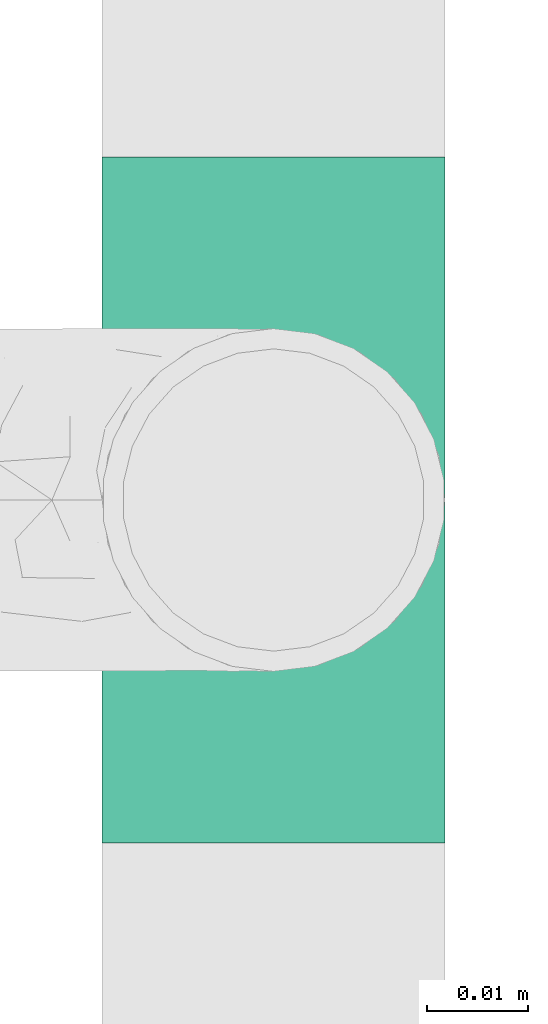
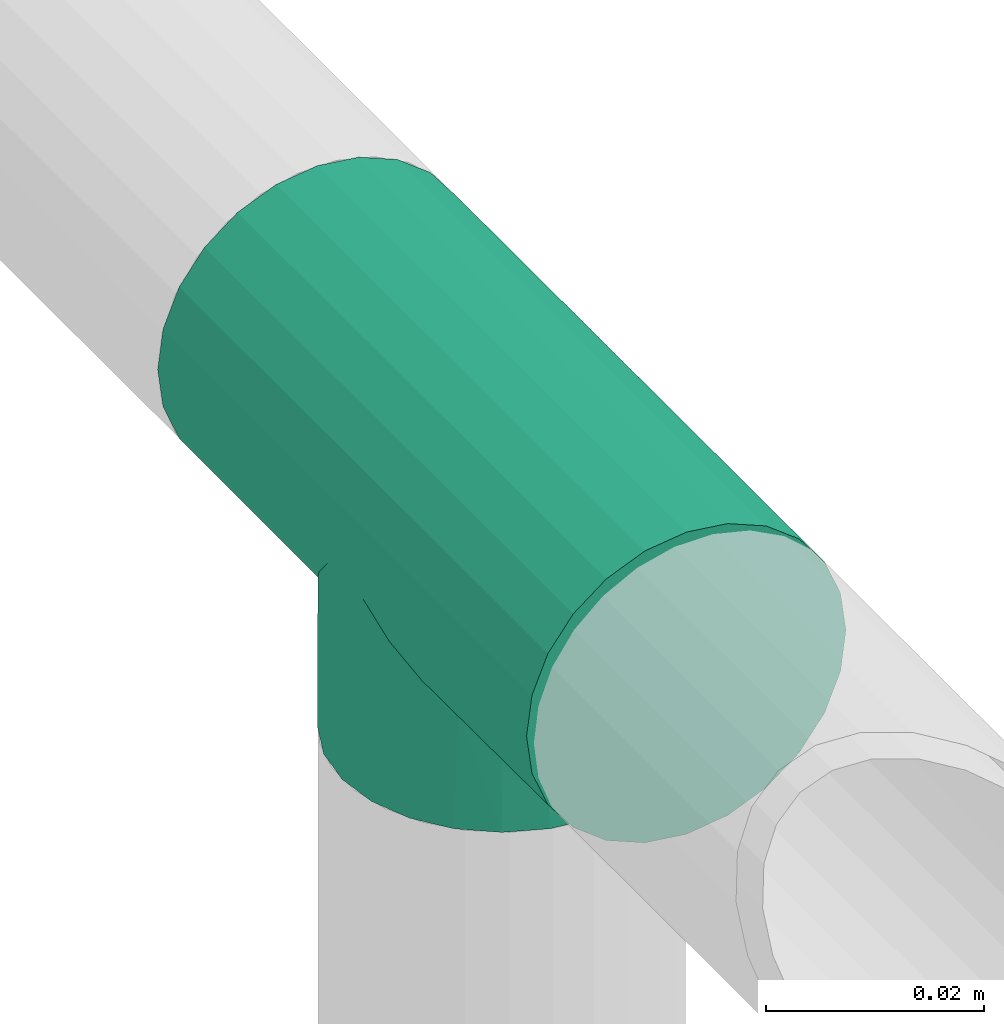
# One storey, part 94 of 95: 1 flow fitting.
"""IFC2X3 building model written with IfcOpenShell, lengths in millimetres."""

from ifc_helpers import new_model, entity, si_unit, converted_unit, derived_unit, direction, frame, origin_with_axes, place, context, subcontext, project, spatial, open_shell, surface_model, source, transform, mapped, type_object, element, save


model = new_model("IFC2X3")

# Units and contexts
model_context = context("Model", 3, precision=0.01, world=frame((0.0, 4.29681676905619e-09, 0.0)), true_north=direction((4.01073788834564e-13, 1.0)))
plan_context = context("Plan", 3, precision=0.01, world=frame((0.0, 4.29681676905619e-09, 0.0)), true_north=direction((4.01073788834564e-13, 1.0)))
body_context = subcontext(model_context, "Body", "Model", "MODEL_VIEW")
ifc_project = project(units=[converted_unit("PLANEANGLEUNIT", "DEGREE", entity("IfcPositiveLengthMeasure", 0.0174532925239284), si_unit("PLANEANGLEUNIT", "RADIAN"), dimensions=[0, 0, 0, 0, 0, 0, 0]), si_unit("AREAUNIT", "SQUARE_METRE"), si_unit("LENGTHUNIT", "METRE", prefix="MILLI"), si_unit("MASSUNIT", "GRAM", prefix="KILO"), si_unit("POWERUNIT", "WATT"), si_unit("PRESSUREUNIT", "PASCAL"), si_unit("FORCEUNIT", "NEWTON", prefix="KILO"), si_unit("ELECTRICVOLTAGEUNIT", "VOLT"), si_unit("ELECTRICCURRENTUNIT", "AMPERE"), si_unit("THERMODYNAMICTEMPERATUREUNIT", "DEGREE_CELSIUS"), si_unit("TIMEUNIT", "SECOND"), si_unit("VOLUMEUNIT", "CUBIC_METRE"), derived_unit("LINEARVELOCITYUNIT", [(si_unit("LENGTHUNIT", "METRE"), 1), (si_unit("TIMEUNIT", "SECOND"), -1)]), derived_unit("VOLUMETRICFLOWRATEUNIT", [(si_unit("VOLUMEUNIT", "CUBIC_METRE"), 1), (si_unit("TIMEUNIT", "SECOND"), -1)]), derived_unit("THERMALTRANSMITTANCEUNIT", [(si_unit("POWERUNIT", "WATT"), 1), (si_unit("THERMODYNAMICTEMPERATUREUNIT", "KELVIN"), -1), (si_unit("AREAUNIT", "SQUARE_METRE"), -1)]), derived_unit("SOUNDPRESSUREUNIT", [(si_unit("PRESSUREUNIT", "PASCAL"), 1)])], contexts=[model_context, plan_context])

# Site, building, storey
site_placement = place(None, frame((0.0, -4.29681676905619e-09, 0.0), z_axis=(0.0, 0.0, 1.0), x_axis=(1.0, 0.0, 0.0)))
site = spatial("IfcSite", under=ifc_project, at=site_placement, CompositionType="ELEMENT")
building_placement = place(site_placement, frame((0.0, 4.29681676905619e-09, 0.0), z_axis=(0.0, 0.0, 1.0), x_axis=(1.0, 0.0, 0.0)))
building = spatial("IfcBuilding", under=site, at=building_placement, Name="mc-building", CompositionType="ELEMENT")
storey_placement = place(building_placement, frame((0.0, 0.0, 210900.0), z_axis=(0.0, 0.0, 1.0), x_axis=(1.0, 0.0, 0.0)))
storey = spatial("IfcBuildingStorey", under=building, at=storey_placement, Name="Nivå F", CompositionType="ELEMENT", Elevation=210900.0)

# Flow fitting
pipe_fitting_type = type_object("IfcPipeFittingType", Name="magi_pipe_fe_tee_centric_90_NOR", PredefinedType="JUNCTION")
shared_shape = source(origin_with_axes(), body_context, "Body", "SurfaceModel", [
    surface_model("IfcShellBasedSurfaceModel", [(-33.8, -8.45, 14.63583), (-33.8, 0.0, 16.9), (-33.8, 8.45, 14.63583), (-33.8, -11.9501, -11.9501), (-33.8, -4.37404, -16.32415), (-33.8, -8.45, -14.63583), (-33.8, 8.45, -14.63583), (-33.8, 14.63583, -8.45), (-33.8, 11.9501, -11.9501), (-33.8, 4.37404, -16.32415), (-33.8, 0.0, -16.9), (-33.8, 4.37404, 16.32415), (-33.8, -16.32415, 4.37404), (-33.8, -16.32415, -4.37404), (-33.8, -16.9, 0.0), (-33.8, 16.32415, 4.37404), (-33.8, -14.63583, -8.45), (-33.8, 16.9, 0.0), (-33.8, 16.32415, -4.37404), (-33.8, -14.63583, 8.45), (-33.8, -11.9501, 11.9501), (-33.8, -4.37404, 16.32415), (-33.8, 14.63583, 8.45), (-33.8, 11.9501, 11.9501), (33.8, 0.0, -16.9), (33.8, 14.63583, -8.45), (33.8, -4.37404, -16.32415), (33.8, -8.45, -14.63583), (33.8, -14.63583, -8.45), (33.8, -16.32415, -4.37404), (33.8, -11.9501, -11.9501), (33.8, -8.45, 14.63583), (33.8, 4.37404, -16.32415), (33.8, 8.45, -14.63583), (33.8, 11.9501, -11.9501), (33.8, 16.9, 0.0), (33.8, 16.32415, -4.37404), (33.8, -16.32415, 4.37404), (33.8, -14.63583, 8.45), (33.8, 8.45, 14.63583), (33.8, -11.9501, 11.9501), (33.8, -4.37404, 16.32415), (33.8, 11.9501, 11.9501), (33.8, 14.63583, 8.45), (33.8, 16.32415, 4.37404), (33.8, 4.37404, 16.32415), (33.8, 0.0, 16.9), (33.8, -16.9, 0.0), (16.28698, 16.28698, 4.51047), (16.9, 16.9, 0.0), (14.62704, 14.62704, 8.4652), (9.47213, 9.47213, 13.99602), (12.26343, 12.26343, 11.62834), (-16.28698, 16.28698, 4.51047), (-16.9, 16.9, 0.0), (-14.62704, 14.62704, 8.4652), (-9.47213, 9.47213, 13.99602), (-12.26343, 12.26343, 11.62834), (-6.42894, 6.42894, 15.62942), (6.42894, 6.42894, 15.62942), (0.0, 0.0, 16.9), (3.24522, 3.24522, 16.58549), (-3.24522, 3.24522, 16.58549), (3.24522, 3.24522, -16.58549), (0.0, 0.0, -16.9), (-6.42894, 6.42894, -15.62942), (-3.24522, 3.24522, -16.58549), (6.42894, 6.42894, -15.62942), (9.47213, 9.47213, -13.99602), (12.26343, 12.26343, -11.62834), (14.62704, 14.62704, -8.4652), (16.28698, 16.28698, -4.51047), (-9.47213, 9.47213, -13.99602), (-12.26343, 12.26343, -11.62834), (-16.28698, 16.28698, -4.51047), (-14.62704, 14.62704, -8.4652), (0.0, 25.35, -16.9), (-16.9, 25.35, 0.0), (4.37404, 25.35, -16.32415), (8.45, 25.35, -14.63583), (14.63583, 25.35, -8.45), (16.32415, 25.35, -4.37404), (11.9501, 25.35, -11.9501), (16.9, 25.35, 0.0), (-11.9501, 25.35, -11.9501), (-14.63583, 25.35, -8.45), (-8.45, 25.35, -14.63583), (-4.37404, 25.35, -16.32415), (-16.32415, 25.35, -4.37404), (16.32415, 25.35, 4.37404), (8.45, 25.35, 14.63583), (14.63583, 25.35, 8.45), (-8.45, 25.35, 14.63583), (11.9501, 25.35, 11.9501), (4.37404, 25.35, 16.32415), (-14.63583, 25.35, 8.45), (-11.9501, 25.35, 11.9501), (-16.32415, 25.35, 4.37404), (-4.37404, 25.35, 16.32415), (0.0, 25.35, 16.9)], [open_shell([[[0, 1, 2]], [[3, 4, 5]], [[6, 7, 8]], [[6, 9, 10]], [[2, 1, 11]], [[12, 13, 14]], [[7, 6, 10]], [[4, 15, 10]], [[16, 13, 4]], [[16, 4, 3]], [[17, 10, 15]], [[10, 18, 7]], [[18, 10, 17]], [[15, 4, 13]], [[13, 12, 19]], [[15, 13, 19]], [[0, 2, 19]], [[0, 19, 20]], [[1, 0, 21]], [[22, 2, 23]], [[2, 22, 15]], [[2, 15, 19]], [[24, 25, 26]], [[27, 26, 28]], [[26, 29, 28]], [[30, 27, 28]], [[25, 31, 26]], [[32, 33, 24]], [[33, 34, 24]], [[35, 31, 36]], [[25, 24, 34]], [[31, 25, 36]], [[31, 29, 26]], [[31, 37, 29]], [[38, 37, 31]], [[35, 39, 31]], [[40, 38, 31]], [[41, 31, 39]], [[42, 39, 43]], [[44, 43, 39]], [[45, 46, 39]], [[39, 35, 44]], [[39, 46, 41]], [[29, 37, 47]], [[48, 43, 44]], [[49, 44, 35]], [[48, 44, 49]], [[48, 50, 43]], [[51, 39, 42]], [[52, 43, 50]], [[42, 52, 51]], [[42, 43, 52]], [[15, 53, 54]], [[17, 15, 54]], [[22, 53, 15]], [[22, 55, 53]], [[23, 56, 57]], [[57, 22, 23]], [[2, 56, 23]], [[55, 22, 57]], [[58, 56, 2]], [[59, 39, 51]], [[60, 46, 61]], [[61, 45, 59]], [[39, 59, 45]], [[46, 45, 61]], [[41, 46, 60]], [[12, 37, 38]], [[40, 31, 20]], [[38, 40, 19]], [[0, 31, 41]], [[47, 37, 14]], [[1, 60, 62]], [[58, 11, 62]], [[1, 62, 11]], [[2, 11, 58]], [[1, 21, 60]], [[60, 21, 41]], [[41, 21, 0]], [[20, 31, 0]], [[40, 20, 19]], [[38, 19, 12]], [[12, 14, 37]], [[30, 28, 16]], [[29, 47, 14]], [[5, 27, 30]], [[29, 13, 28]], [[63, 32, 24]], [[26, 64, 24]], [[63, 24, 64]], [[4, 26, 27]], [[26, 4, 64]], [[5, 30, 3]], [[16, 28, 13]], [[3, 30, 16]], [[29, 14, 13]], [[9, 65, 66]], [[64, 4, 10]], [[9, 66, 10]], [[9, 6, 65]], [[27, 5, 4]], [[66, 64, 10]], [[67, 32, 63]], [[68, 34, 33]], [[34, 68, 69]], [[69, 70, 25]], [[25, 34, 69]], [[67, 68, 33]], [[49, 35, 36]], [[25, 71, 36]], [[49, 36, 71]], [[70, 71, 25]], [[65, 6, 72]], [[6, 8, 72]], [[73, 72, 8]], [[7, 73, 8]], [[18, 54, 74]], [[7, 74, 75]], [[7, 18, 74]], [[17, 54, 18]], [[73, 7, 75]], [[32, 67, 33]], [[76, 77, 78]], [[79, 78, 80]], [[78, 81, 80]], [[82, 79, 80]], [[78, 77, 83]], [[84, 85, 86]], [[76, 87, 86]], [[88, 77, 85]], [[86, 85, 77]], [[86, 77, 76]], [[83, 81, 78]], [[89, 83, 90]], [[91, 89, 90]], [[92, 90, 83]], [[93, 91, 90]], [[94, 90, 92]], [[95, 96, 97]], [[92, 97, 96]], [[98, 99, 92]], [[92, 77, 97]], [[92, 99, 94]], [[83, 77, 92]], [[54, 97, 77]], [[97, 54, 53]], [[57, 96, 95]], [[56, 92, 96]], [[53, 95, 97]], [[98, 92, 58]], [[95, 53, 55]], [[95, 55, 57]], [[92, 56, 58]], [[62, 60, 99]], [[62, 98, 58]], [[56, 96, 57]], [[99, 98, 62]], [[99, 61, 94]], [[94, 59, 90]], [[48, 89, 91]], [[91, 93, 52]], [[90, 51, 93]], [[83, 89, 49]], [[94, 61, 59]], [[90, 59, 51]], [[89, 48, 49]], [[91, 52, 50]], [[91, 50, 48]], [[52, 93, 51]], [[60, 61, 99]], [[49, 81, 83]], [[81, 49, 71]], [[69, 82, 80]], [[68, 79, 82]], [[71, 80, 81]], [[78, 79, 67]], [[80, 71, 70]], [[80, 70, 69]], [[79, 68, 67]], [[63, 64, 76]], [[63, 78, 67]], [[68, 82, 69]], [[76, 78, 63]], [[76, 66, 87]], [[87, 65, 86]], [[74, 88, 85]], [[84, 73, 85]], [[84, 86, 72]], [[77, 88, 54]], [[87, 66, 65]], [[86, 65, 72]], [[88, 74, 54]], [[85, 73, 75]], [[85, 75, 74]], [[73, 84, 72]], [[64, 66, 76]]])]),
])
flow_fitting_placement = place(storey_placement, frame((527387.9, 461000.75899, 4310.0), z_axis=(-1.0, 0.0, 0.0), x_axis=(0.0, 1.0, 0.0)))
element("IfcFlowFitting", 1, at=flow_fitting_placement, inside=storey, type_object=pipe_fitting_type, Name="magi_pipe_fe_tee_centric_90_NOR", context=body_context, shape_type="MappedRepresentation", body=[
    mapped(shared_shape, transform((0.0, 0.0, 0.0), scale=1.0)),
])

save(model, "model.ifc")
